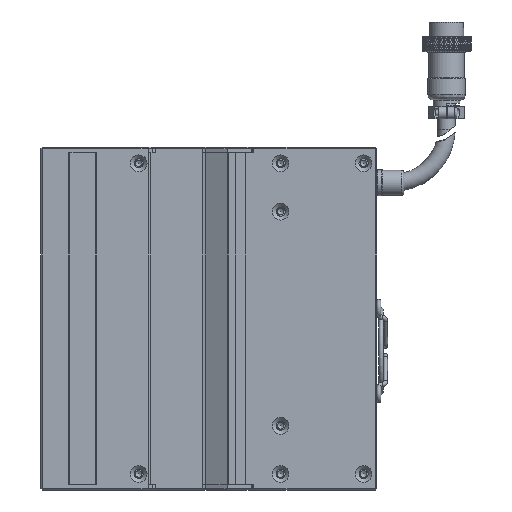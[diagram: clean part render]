
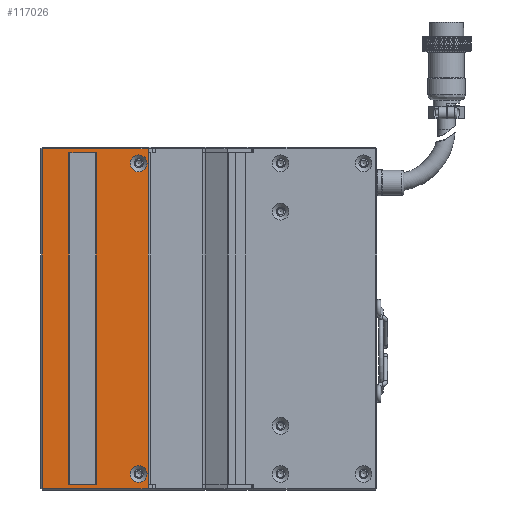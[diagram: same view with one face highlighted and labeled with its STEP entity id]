
A CAD part, left-side view. The second image highlights one B-rep face of the part: STEP entity #117026.
In plain terms, the highlighted planar face has unit normal (-1, 0, 0).
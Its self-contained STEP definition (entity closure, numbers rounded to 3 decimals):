
#565 = ORIENTED_EDGE ( 'NONE', *, *, #5351, .T. ) ;
#643 = ORIENTED_EDGE ( 'NONE', *, *, #106236, .F. ) ;
#1354 = LINE ( 'NONE', #8140, #13240 ) ;
#3506 = VECTOR ( 'NONE', #32212, 1000. ) ;
#4764 = LINE ( 'NONE', #91371, #15111 ) ;
#4862 = VECTOR ( 'NONE', #59966, 1000. ) ;
#5351 = EDGE_CURVE ( 'NONE', #82312, #35350, #71039, .T. ) ;
#5411 = CARTESIAN_POINT ( 'NONE',  ( -17., 13.005, 63.5 ) ) ;
#5854 = ORIENTED_EDGE ( 'NONE', *, *, #74027, .F. ) ;
#7074 = LINE ( 'NONE', #15598, #21862 ) ;
#8140 = CARTESIAN_POINT ( 'NONE',  ( -17., 53.005, 63.5 ) ) ;
#8199 = VERTEX_POINT ( 'NONE', #111693 ) ;
#8544 = DIRECTION ( 'NONE',  ( 0., 1., 0. ) ) ;
#9195 = EDGE_CURVE ( 'NONE', #77455, #80687, #117599, .T. ) ;
#10092 = VERTEX_POINT ( 'NONE', #26244 ) ;
#10869 = ORIENTED_EDGE ( 'NONE', *, *, #94879, .F. ) ;
#12297 = CARTESIAN_POINT ( 'NONE',  ( -17., 13., 62. ) ) ;
#13240 = VECTOR ( 'NONE', #8544, 1000. ) ;
#13329 = CARTESIAN_POINT ( 'NONE',  ( -17., 32.35, 62. ) ) ;
#15111 = VECTOR ( 'NONE', #46396, 1000. ) ;
#15368 = EDGE_CURVE ( 'NONE', #75847, #66020, #86168, .T. ) ;
#15598 = CARTESIAN_POINT ( 'NONE',  ( -17., 13.005, 62. ) ) ;
#18022 = VECTOR ( 'NONE', #43916, 1000. ) ;
#19643 = ORIENTED_EDGE ( 'NONE', *, *, #70495, .F. ) ;
#19751 = ORIENTED_EDGE ( 'NONE', *, *, #37100, .F. ) ;
#20184 = EDGE_CURVE ( 'NONE', #26354, #96898, #41331, .T. ) ;
#21862 = VECTOR ( 'NONE', #100351, 1000. ) ;
#22307 = CARTESIAN_POINT ( 'NONE',  ( -17., 13., -62. ) ) ;
#22504 = LINE ( 'NONE', #12297, #4862 ) ;
#23309 = ORIENTED_EDGE ( 'NONE', *, *, #114498, .T. ) ;
#25100 = CARTESIAN_POINT ( 'NONE',  ( -17., 16.5, -58. ) ) ;
#25628 = ORIENTED_EDGE ( 'NONE', *, *, #48503, .T. ) ;
#26244 = CARTESIAN_POINT ( 'NONE',  ( -17., 52.505, 63.5 ) ) ;
#26354 = VERTEX_POINT ( 'NONE', #95075 ) ;
#26927 = VERTEX_POINT ( 'NONE', #94111 ) ;
#27063 = CARTESIAN_POINT ( 'NONE',  ( -17., 52.5, -62. ) ) ;
#27122 = ORIENTED_EDGE ( 'NONE', *, *, #9195, .F. ) ;
#29083 = LINE ( 'NONE', #40673, #111537 ) ;
#30757 = ORIENTED_EDGE ( 'NONE', *, *, #91268, .T. ) ;
#31627 = DIRECTION ( 'NONE',  ( 0., -1., 0. ) ) ;
#32212 = DIRECTION ( 'NONE',  ( 0., 0., -1. ) ) ;
#33566 = FACE_BOUND ( 'NONE', #53582, .T. ) ;
#34219 = LINE ( 'NONE', #94803, #40136 ) ;
#34409 = ORIENTED_EDGE ( 'NONE', *, *, #20184, .F. ) ;
#34901 = CARTESIAN_POINT ( 'NONE',  ( -17., 13.005, -62. ) ) ;
#35350 = VERTEX_POINT ( 'NONE', #27063 ) ;
#37078 = DIRECTION ( 'NONE',  ( 0., -1., 0. ) ) ;
#37100 = EDGE_CURVE ( 'NONE', #50885, #50885, #46482, .T. ) ;
#37917 = DIRECTION ( 'NONE',  ( 0., -1., 0. ) ) ;
#38878 = ORIENTED_EDGE ( 'NONE', *, *, #109397, .F. ) ;
#39900 = EDGE_LOOP ( 'NONE', ( #34409, #104256, #70349, #38878 ) ) ;
#40136 = VECTOR ( 'NONE', #37917, 1000. ) ;
#40673 = CARTESIAN_POINT ( 'NONE',  ( -17., 11.505, -62. ) ) ;
#41331 = LINE ( 'NONE', #57293, #107618 ) ;
#43357 = VECTOR ( 'NONE', #78511, 1000. ) ;
#43916 = DIRECTION ( 'NONE',  ( 0., 0., -1. ) ) ;
#44846 = CARTESIAN_POINT ( 'NONE',  ( -17., 32.35, -62. ) ) ;
#46004 = EDGE_CURVE ( 'NONE', #96212, #10092, #1354, .T. ) ;
#46396 = DIRECTION ( 'NONE',  ( 0., 0., 1. ) ) ;
#46459 = CARTESIAN_POINT ( 'NONE',  ( -17., 52.505, -63.5 ) ) ;
#46482 = CIRCLE ( 'NONE', #69959, 3.15 ) ;
#46808 = FACE_OUTER_BOUND ( 'NONE', #118333, .T. ) ;
#47832 = DIRECTION ( 'NONE',  ( 0., 0., -1. ) ) ;
#48503 = EDGE_CURVE ( 'NONE', #77455, #96212, #7074, .T. ) ;
#48513 = CARTESIAN_POINT ( 'NONE',  ( -17., 11.505, -62. ) ) ;
#50885 = VERTEX_POINT ( 'NONE', #112280 ) ;
#52535 = VERTEX_POINT ( 'NONE', #88124 ) ;
#52842 = LINE ( 'NONE', #55630, #78026 ) ;
#53569 = LINE ( 'NONE', #22307, #75743 ) ;
#53582 = EDGE_LOOP ( 'NONE', ( #19643 ) ) ;
#54448 = VECTOR ( 'NONE', #100403, 1000. ) ;
#55630 = CARTESIAN_POINT ( 'NONE',  ( -17., 11.505, 62. ) ) ;
#56943 = DIRECTION ( 'NONE',  ( 0., -1., 0. ) ) ;
#57293 = CARTESIAN_POINT ( 'NONE',  ( -17., 42.55, 62. ) ) ;
#57310 = EDGE_CURVE ( 'NONE', #121254, #35350, #100395, .T. ) ;
#59092 = CARTESIAN_POINT ( 'NONE',  ( -17., 52.505, 62. ) ) ;
#59966 = DIRECTION ( 'NONE',  ( 0., 0., -1. ) ) ;
#61416 = CARTESIAN_POINT ( 'NONE',  ( -17., 52.5, 62. ) ) ;
#63635 = VECTOR ( 'NONE', #106723, 1000. ) ;
#63662 = VERTEX_POINT ( 'NONE', #46459 ) ;
#65182 = CIRCLE ( 'NONE', #78901, 3.15 ) ;
#66020 = VERTEX_POINT ( 'NONE', #44846 ) ;
#69001 = DIRECTION ( 'NONE',  ( 1., 0., 0. ) ) ;
#69959 = AXIS2_PLACEMENT_3D ( 'NONE', #110022, #82150, #99759 ) ;
#70223 = EDGE_CURVE ( 'NONE', #26354, #75847, #34219, .T. ) ;
#70349 = ORIENTED_EDGE ( 'NONE', *, *, #15368, .T. ) ;
#70495 = EDGE_CURVE ( 'NONE', #92089, #92089, #65182, .T. ) ;
#71039 = LINE ( 'NONE', #81101, #18022 ) ;
#74027 = EDGE_CURVE ( 'NONE', #26927, #8199, #79574, .T. ) ;
#74421 = LINE ( 'NONE', #59092, #43357 ) ;
#75743 = VECTOR ( 'NONE', #114920, 1000. ) ;
#75847 = VERTEX_POINT ( 'NONE', #117853 ) ;
#76590 = DIRECTION ( 'NONE',  ( 0., -1., 0. ) ) ;
#76876 = EDGE_CURVE ( 'NONE', #89064, #82312, #52842, .T. ) ;
#77455 = VERTEX_POINT ( 'NONE', #100112 ) ;
#77611 = AXIS2_PLACEMENT_3D ( 'NONE', #107271, #69001, #87964 ) ;
#78026 = VECTOR ( 'NONE', #37078, 1000. ) ;
#78511 = DIRECTION ( 'NONE',  ( 0., 0., -1. ) ) ;
#78901 = AXIS2_PLACEMENT_3D ( 'NONE', #25100, #91858, #110273 ) ;
#79574 = LINE ( 'NONE', #34901, #54448 ) ;
#79624 = ORIENTED_EDGE ( 'NONE', *, *, #57310, .F. ) ;
#80687 = VERTEX_POINT ( 'NONE', #106856 ) ;
#80808 = FACE_BOUND ( 'NONE', #97524, .T. ) ;
#81101 = CARTESIAN_POINT ( 'NONE',  ( -17., 52.5, 62. ) ) ;
#81351 = VECTOR ( 'NONE', #76590, 1000. ) ;
#82150 = DIRECTION ( 'NONE',  ( -1., 0., 0. ) ) ;
#82312 = VERTEX_POINT ( 'NONE', #61416 ) ;
#85365 = EDGE_CURVE ( 'NONE', #80687, #52535, #22504, .T. ) ;
#85985 = CARTESIAN_POINT ( 'NONE',  ( -17., 52.505, -62. ) ) ;
#86168 = LINE ( 'NONE', #13329, #3506 ) ;
#87964 = DIRECTION ( 'NONE',  ( 0., 0., -1. ) ) ;
#88124 = CARTESIAN_POINT ( 'NONE',  ( -17., 13., -62. ) ) ;
#89064 = VERTEX_POINT ( 'NONE', #104798 ) ;
#91268 = EDGE_CURVE ( 'NONE', #10092, #89064, #74421, .T. ) ;
#91371 = CARTESIAN_POINT ( 'NONE',  ( -17., 52.505, -62. ) ) ;
#91858 = DIRECTION ( 'NONE',  ( -1., 0., 0. ) ) ;
#92089 = VERTEX_POINT ( 'NONE', #113088 ) ;
#94111 = CARTESIAN_POINT ( 'NONE',  ( -17., 13.005, -62. ) ) ;
#94450 = CARTESIAN_POINT ( 'NONE',  ( -17., 13., 62. ) ) ;
#94803 = CARTESIAN_POINT ( 'NONE',  ( -17., 11.505, 62. ) ) ;
#94879 = EDGE_CURVE ( 'NONE', #8199, #63662, #113710, .T. ) ;
#95075 = CARTESIAN_POINT ( 'NONE',  ( -17., 42.55, 62. ) ) ;
#96212 = VERTEX_POINT ( 'NONE', #5411 ) ;
#96898 = VERTEX_POINT ( 'NONE', #101284 ) ;
#97524 = EDGE_LOOP ( 'NONE', ( #19751 ) ) ;
#99759 = DIRECTION ( 'NONE',  ( 0., 0., 1. ) ) ;
#100112 = CARTESIAN_POINT ( 'NONE',  ( -17., 13.005, 62. ) ) ;
#100351 = DIRECTION ( 'NONE',  ( 0., 0., 1. ) ) ;
#100395 = LINE ( 'NONE', #48513, #81351 ) ;
#100403 = DIRECTION ( 'NONE',  ( 0., 0., -1. ) ) ;
#101284 = CARTESIAN_POINT ( 'NONE',  ( -17., 42.55, -62. ) ) ;
#101430 = VECTOR ( 'NONE', #56943, 1000. ) ;
#104109 = ORIENTED_EDGE ( 'NONE', *, *, #85365, .F. ) ;
#104256 = ORIENTED_EDGE ( 'NONE', *, *, #70223, .T. ) ;
#104798 = CARTESIAN_POINT ( 'NONE',  ( -17., 52.505, 62. ) ) ;
#105783 = FACE_BOUND ( 'NONE', #39900, .T. ) ;
#106236 = EDGE_CURVE ( 'NONE', #63662, #121254, #4764, .T. ) ;
#106723 = DIRECTION ( 'NONE',  ( 0., 1., 0. ) ) ;
#106856 = CARTESIAN_POINT ( 'NONE',  ( -17., 13., 62. ) ) ;
#107271 = CARTESIAN_POINT ( 'NONE',  ( -17., 42.55, 62. ) ) ;
#107618 = VECTOR ( 'NONE', #47832, 1000. ) ;
#108980 = ORIENTED_EDGE ( 'NONE', *, *, #46004, .T. ) ;
#109397 = EDGE_CURVE ( 'NONE', #96898, #66020, #29083, .T. ) ;
#110022 = CARTESIAN_POINT ( 'NONE',  ( -17., 16.5, 58. ) ) ;
#110273 = DIRECTION ( 'NONE',  ( 0., 0., 1. ) ) ;
#111537 = VECTOR ( 'NONE', #31627, 1000. ) ;
#111693 = CARTESIAN_POINT ( 'NONE',  ( -17., 13.005, -63.5 ) ) ;
#112280 = CARTESIAN_POINT ( 'NONE',  ( -17., 16.5, 61.15 ) ) ;
#113088 = CARTESIAN_POINT ( 'NONE',  ( -17., 16.5, -54.85 ) ) ;
#113710 = LINE ( 'NONE', #114931, #63635 ) ;
#114498 = EDGE_CURVE ( 'NONE', #26927, #52535, #53569, .T. ) ;
#114920 = DIRECTION ( 'NONE',  ( 0., -1., 0. ) ) ;
#114931 = CARTESIAN_POINT ( 'NONE',  ( -17., 53.005, -63.5 ) ) ;
#115907 = PLANE ( 'NONE',  #77611 ) ;
#117026 = ADVANCED_FACE ( 'NONE', ( #105783, #46808, #33566, #80808 ), #115907, .F. ) ;
#117599 = LINE ( 'NONE', #94450, #101430 ) ;
#117853 = CARTESIAN_POINT ( 'NONE',  ( -17., 32.35, 62. ) ) ;
#118333 = EDGE_LOOP ( 'NONE', ( #565, #79624, #643, #10869, #5854, #23309, #104109, #27122, #25628, #108980, #30757, #120394 ) ) ;
#120394 = ORIENTED_EDGE ( 'NONE', *, *, #76876, .T. ) ;
#121254 = VERTEX_POINT ( 'NONE', #85985 ) ;
